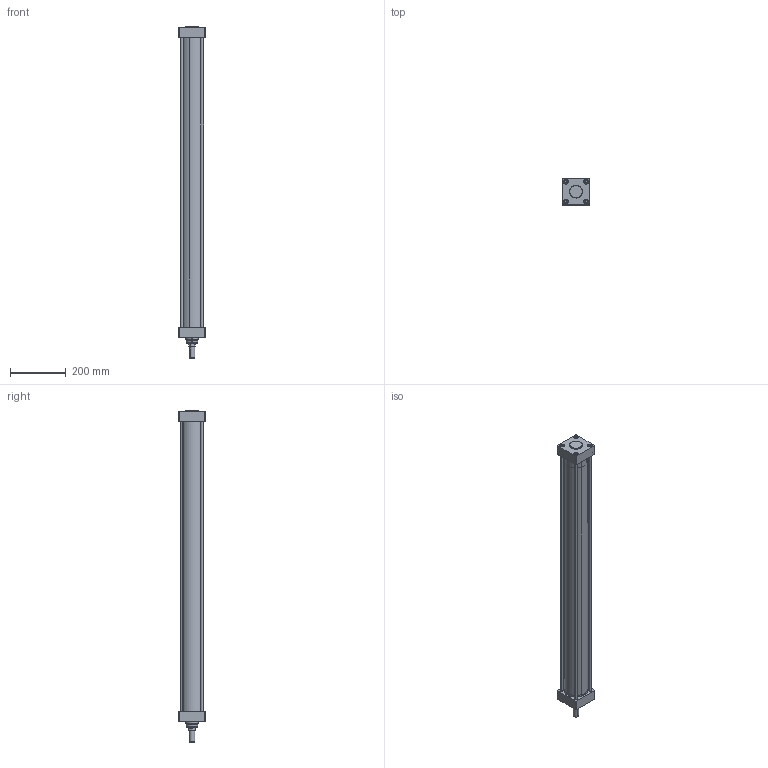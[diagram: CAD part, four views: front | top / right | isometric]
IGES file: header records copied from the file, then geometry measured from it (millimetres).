
Start section: SolidWorks IGES file using analytic representation for surfaces
Global section: file name: D:\ARICA 3D ÇÝZÝMLER\3D IGES\SC-CR-S KROM SERÝSÝ\SC-CR-S 80\SC-CR-S-80X1000-CYLINDER.IGS; native system: SolidWorks 2013; preprocessor: SolidWorks 2013; author: user; date: 161031.163641; units: millimetre
Bounding box: 95 x 94 x 1191 mm (x, y, z)
Surface area: 902564.8 mm2 (no closed solid volume)
Topology: 0 solids, 0 shells, 439 faces, 7802 edges, 7800 vertices
Faces by surface type: revolution 281, bspline 158
